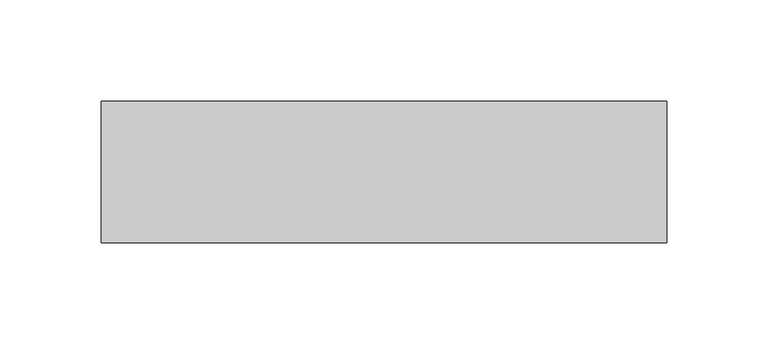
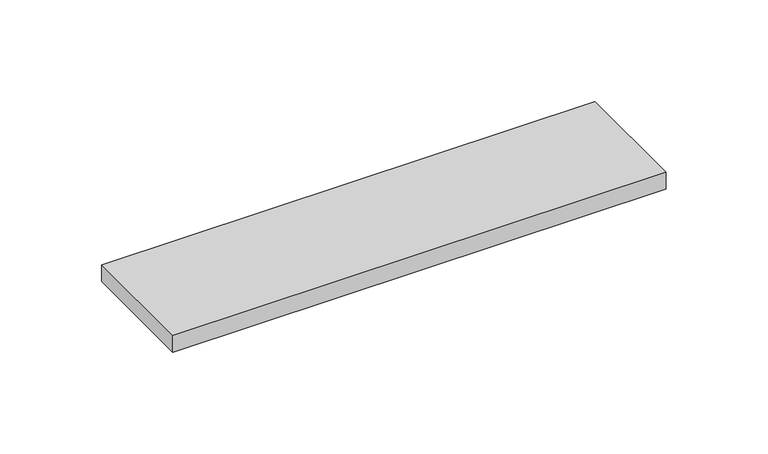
"""IFC4 building model written with IfcOpenShell, lengths in millimetres: furniture geometry, Prateleira de Vidro 10mm : Prateleira de Vidro."""

from ifc_helpers import new_model, si_unit, origin, origin_with_axes, place, context, project, spatial, polyline, outline, extrude, source, transform, mapped, element, save


def furniture_09c1f700(model_context):
    return source(origin(), model_context, "Body", "SweptSolid", [
        extrude(outline(polyline([(280.0, 0.0), (280.0, -70.0), (0.0, -70.0), (0.0, 0.0), (280.0, 0.0)])), origin_with_axes(), (0.0, 0.0, 1.0), 10.0),
    ])


if __name__ == "__main__":
    model = new_model("IFC4")
    model_context = context("Model", 3, world=origin())
    ifc_project = project(units=[si_unit("LENGTHUNIT", "METRE", prefix="MILLI")], contexts=[model_context])
    site = spatial("IfcSite", under=ifc_project)
    building = spatial("IfcBuilding", under=site)
    placement = place(None, origin())
    furniture_shape = furniture_09c1f700(model_context)
    element("IfcFurniture", 1, ObjectType="Prateleira de Vidro 10mm : Prateleira de Vidro", at=placement, inside=building, context=model_context, shape_type="MappedRepresentation", body=[
        mapped(furniture_shape, transform((0.0, 0.0, 0.0), x_axis=(1.0, 0.0, 0.0), y_axis=(0.0, 1.0, 0.0), z_axis=(0.0, 0.0, 1.0))),
    ])
    save(model, "model.ifc")
